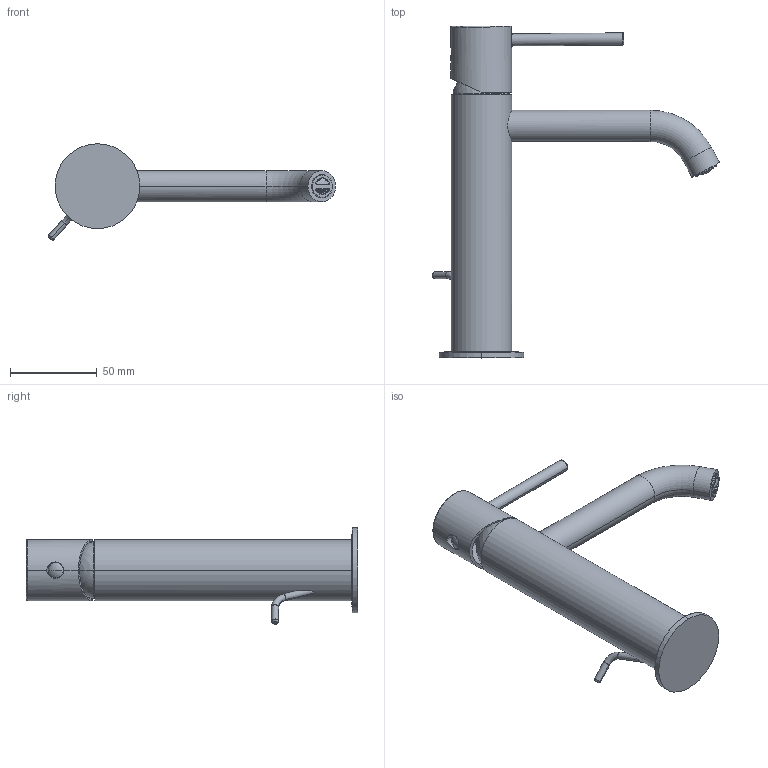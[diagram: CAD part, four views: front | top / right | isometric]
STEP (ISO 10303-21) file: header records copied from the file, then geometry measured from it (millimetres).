
FILE_DESCRIPTION((''),'2;1');
FILE_NAME('12454_SW0001','2023-10-05T10:40:35',('carloff'),(''),'CREO PARAMETRIC BY PTC INC, 2022014','CREO PARAMETRIC BY PTC INC, 2022014','');
FILE_SCHEMA(('CONFIG_CONTROL_DESIGN'));
Length unit declared in the file: millimetre
Products named in the file (1): 12454_SW0001
Bounding box: 165.17 x 190.95 x 55.47 mm (x, y, z)
Volume: 198101.1 mm3; surface area: 43394.4 mm2
Topology: 1 solids, 1 shells, 490 faces, 1366 edges, 891 vertices
Faces by surface type: plane 173, torus 170, cylinder 71, bspline 40, cone 22, sphere 14
Entity records: 25009 total; most frequent: CARTESIAN_POINT 13067, ORIENTED_EDGE 2712, DIRECTION 2275, EDGE_CURVE 1356, AXIS2_PLACEMENT_3D 950, VERTEX_POINT 891, EDGE_LOOP 517, CIRCLE 500
